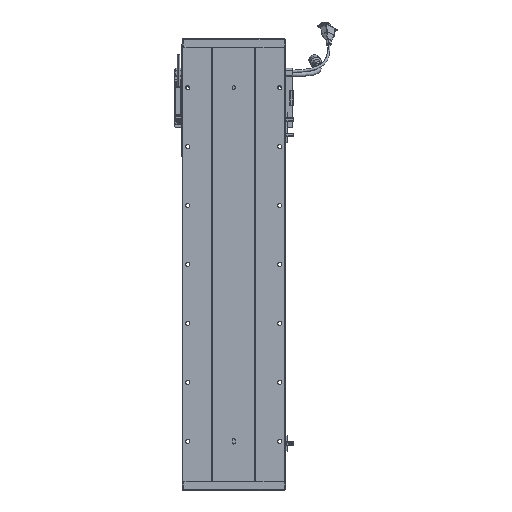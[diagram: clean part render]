
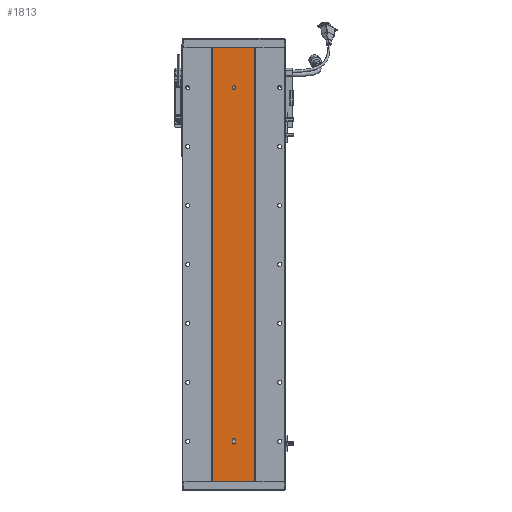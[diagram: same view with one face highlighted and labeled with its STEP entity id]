
A CAD part, front view. The second image highlights one B-rep face of the part: STEP entity #1813.
In plain terms, the highlighted planar face has unit normal (0, -1, 0).
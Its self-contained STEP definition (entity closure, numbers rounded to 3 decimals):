
#801 = EDGE_LOOP ( 'NONE', ( #6913, #55581, #4406, #26535, #2455 ) ) ;
#1813 = ADVANCED_FACE ( 'NONE', ( #36441, #59033, #27115 ), #33179, .F. ) ;
#2093 = CARTESIAN_POINT ( 'NONE',  ( 3280.529, 1415.701, 665.5 ) ) ;
#2455 = ORIENTED_EDGE ( 'NONE', *, *, #27297, .F. ) ;
#2534 = AXIS2_PLACEMENT_3D ( 'NONE', #63405, #69151, #68392 ) ;
#3273 = EDGE_CURVE ( 'NONE', #6822, #17023, #68203, .T. ) ;
#3426 = DIRECTION ( 'NONE',  ( 1., 0., 0. ) ) ;
#3953 = VECTOR ( 'NONE', #46944, 1000. ) ;
#4203 = LINE ( 'NONE', #57998, #57719 ) ;
#4406 = ORIENTED_EDGE ( 'NONE', *, *, #32380, .F. ) ;
#5876 = CARTESIAN_POINT ( 'NONE',  ( 3316.311, 1415.701, 737. ) ) ;
#6683 = EDGE_LOOP ( 'NONE', ( #77738, #57874, #62693, #66024 ) ) ;
#6822 = VERTEX_POINT ( 'NONE', #34344 ) ;
#6913 = ORIENTED_EDGE ( 'NONE', *, *, #29749, .F. ) ;
#6919 = AXIS2_PLACEMENT_3D ( 'NONE', #48516, #18316, #41633 ) ;
#8457 = CARTESIAN_POINT ( 'NONE',  ( 3283.529, 1415.701, 70. ) ) ;
#13002 = DIRECTION ( 'NONE',  ( 0., 0., -1. ) ) ;
#14099 = CARTESIAN_POINT ( 'NONE',  ( 3244.748, 1415.701, 0. ) ) ;
#14516 = EDGE_CURVE ( 'NONE', #59143, #44741, #22640, .T. ) ;
#17008 = VERTEX_POINT ( 'NONE', #50052 ) ;
#17023 = VERTEX_POINT ( 'NONE', #2093 ) ;
#17600 = AXIS2_PLACEMENT_3D ( 'NONE', #48161, #59987, #53938 ) ;
#18045 = EDGE_CURVE ( 'NONE', #46229, #34764, #4203, .T. ) ;
#18061 = DIRECTION ( 'NONE',  ( 0., 0., -1. ) ) ;
#18316 = DIRECTION ( 'NONE',  ( 0., -1., 0. ) ) ;
#18722 = EDGE_CURVE ( 'NONE', #59143, #66754, #66934, .T. ) ;
#19417 = EDGE_CURVE ( 'NONE', #42554, #61764, #51892, .T. ) ;
#19546 = ORIENTED_EDGE ( 'NONE', *, *, #3273, .F. ) ;
#19716 = DIRECTION ( 'NONE',  ( 0., 0., 1. ) ) ;
#19801 = EDGE_CURVE ( 'NONE', #66754, #55209, #74352, .T. ) ;
#20972 = CARTESIAN_POINT ( 'NONE',  ( 3283.529, 1415.701, 67. ) ) ;
#21365 = AXIS2_PLACEMENT_3D ( 'NONE', #22846, #34859, #45945 ) ;
#22640 = LINE ( 'NONE', #40852, #3953 ) ;
#22846 = CARTESIAN_POINT ( 'NONE',  ( 3280.529, 1415.701, 67. ) ) ;
#24275 = EDGE_CURVE ( 'NONE', #17023, #6822, #74781, .T. ) ;
#24371 = DIRECTION ( 'NONE',  ( 0., 0., -1. ) ) ;
#26220 = CARTESIAN_POINT ( 'NONE',  ( 3244.748, 1415.701, 737. ) ) ;
#26535 = ORIENTED_EDGE ( 'NONE', *, *, #19417, .F. ) ;
#27115 = FACE_OUTER_BOUND ( 'NONE', #6683, .T. ) ;
#27297 = EDGE_CURVE ( 'NONE', #17008, #42554, #37210, .T. ) ;
#27506 = VECTOR ( 'NONE', #13002, 1000. ) ;
#29621 = LINE ( 'NONE', #30635, #55000 ) ;
#29749 = EDGE_CURVE ( 'NONE', #34764, #17008, #71210, .T. ) ;
#30613 = CARTESIAN_POINT ( 'NONE',  ( 3280.529, 1415.701, 67. ) ) ;
#30635 = CARTESIAN_POINT ( 'NONE',  ( 3316.311, 1415.701, 737. ) ) ;
#31250 = CIRCLE ( 'NONE', #6919, 3. ) ;
#32380 = EDGE_CURVE ( 'NONE', #61764, #46229, #31250, .T. ) ;
#33179 = PLANE ( 'NONE',  #2534 ) ;
#34344 = CARTESIAN_POINT ( 'NONE',  ( 3280.529, 1415.701, 671.5 ) ) ;
#34764 = VERTEX_POINT ( 'NONE', #75923 ) ;
#34859 = DIRECTION ( 'NONE',  ( 0., -1., 0. ) ) ;
#36105 = AXIS2_PLACEMENT_3D ( 'NONE', #49333, #66623, #24371 ) ;
#36441 = FACE_BOUND ( 'NONE', #801, .T. ) ;
#37210 = CIRCLE ( 'NONE', #41288, 3. ) ;
#38106 = CARTESIAN_POINT ( 'NONE',  ( 3244.748, 1415.701, 737. ) ) ;
#39747 = CARTESIAN_POINT ( 'NONE',  ( 3244.748, 1415.701, 0. ) ) ;
#40852 = CARTESIAN_POINT ( 'NONE',  ( 3244.748, 1415.701, 737. ) ) ;
#41288 = AXIS2_PLACEMENT_3D ( 'NONE', #30613, #66575, #42666 ) ;
#41633 = DIRECTION ( 'NONE',  ( 0., 0., -1. ) ) ;
#42554 = VERTEX_POINT ( 'NONE', #20972 ) ;
#42666 = DIRECTION ( 'NONE',  ( 0., 0., -1. ) ) ;
#44741 = VERTEX_POINT ( 'NONE', #5876 ) ;
#45945 = DIRECTION ( 'NONE',  ( 0., 0., -1. ) ) ;
#46138 = DIRECTION ( 'NONE',  ( 0., 0., -1. ) ) ;
#46229 = VERTEX_POINT ( 'NONE', #72921 ) ;
#46944 = DIRECTION ( 'NONE',  ( 1., 0., 0. ) ) ;
#48161 = CARTESIAN_POINT ( 'NONE',  ( 3280.529, 1415.701, 668.5 ) ) ;
#48516 = CARTESIAN_POINT ( 'NONE',  ( 3280.529, 1415.701, 70. ) ) ;
#49333 = CARTESIAN_POINT ( 'NONE',  ( 3280.529, 1415.701, 668.5 ) ) ;
#50033 = VECTOR ( 'NONE', #19716, 1000. ) ;
#50052 = CARTESIAN_POINT ( 'NONE',  ( 3280.529, 1415.701, 64. ) ) ;
#51892 = LINE ( 'NONE', #8457, #50033 ) ;
#53103 = CARTESIAN_POINT ( 'NONE',  ( 3316.311, 1415.701, 0. ) ) ;
#53824 = CARTESIAN_POINT ( 'NONE',  ( 3283.529, 1415.701, 70. ) ) ;
#53938 = DIRECTION ( 'NONE',  ( 0., 0., -1. ) ) ;
#55000 = VECTOR ( 'NONE', #18061, 1000. ) ;
#55209 = VERTEX_POINT ( 'NONE', #53103 ) ;
#55581 = ORIENTED_EDGE ( 'NONE', *, *, #18045, .F. ) ;
#56509 = VECTOR ( 'NONE', #3426, 1000. ) ;
#57719 = VECTOR ( 'NONE', #46138, 1000. ) ;
#57874 = ORIENTED_EDGE ( 'NONE', *, *, #73630, .F. ) ;
#57998 = CARTESIAN_POINT ( 'NONE',  ( 3277.529, 1415.701, 70. ) ) ;
#59033 = FACE_BOUND ( 'NONE', #62366, .T. ) ;
#59143 = VERTEX_POINT ( 'NONE', #26220 ) ;
#59987 = DIRECTION ( 'NONE',  ( 0., -1., 0. ) ) ;
#61764 = VERTEX_POINT ( 'NONE', #53824 ) ;
#62213 = ORIENTED_EDGE ( 'NONE', *, *, #24275, .F. ) ;
#62366 = EDGE_LOOP ( 'NONE', ( #62213, #19546 ) ) ;
#62693 = ORIENTED_EDGE ( 'NONE', *, *, #14516, .F. ) ;
#63405 = CARTESIAN_POINT ( 'NONE',  ( 3244.748, 1415.701, 737. ) ) ;
#66024 = ORIENTED_EDGE ( 'NONE', *, *, #18722, .T. ) ;
#66575 = DIRECTION ( 'NONE',  ( 0., -1., 0. ) ) ;
#66623 = DIRECTION ( 'NONE',  ( 0., -1., 0. ) ) ;
#66754 = VERTEX_POINT ( 'NONE', #14099 ) ;
#66934 = LINE ( 'NONE', #38106, #27506 ) ;
#68203 = CIRCLE ( 'NONE', #17600, 3. ) ;
#68392 = DIRECTION ( 'NONE',  ( 0., 0., 1. ) ) ;
#69151 = DIRECTION ( 'NONE',  ( 0., 1., 0. ) ) ;
#71210 = CIRCLE ( 'NONE', #21365, 3. ) ;
#72921 = CARTESIAN_POINT ( 'NONE',  ( 3277.529, 1415.701, 70. ) ) ;
#73630 = EDGE_CURVE ( 'NONE', #44741, #55209, #29621, .T. ) ;
#74352 = LINE ( 'NONE', #39747, #56509 ) ;
#74781 = CIRCLE ( 'NONE', #36105, 3. ) ;
#75923 = CARTESIAN_POINT ( 'NONE',  ( 3277.529, 1415.701, 67. ) ) ;
#77738 = ORIENTED_EDGE ( 'NONE', *, *, #19801, .T. ) ;
